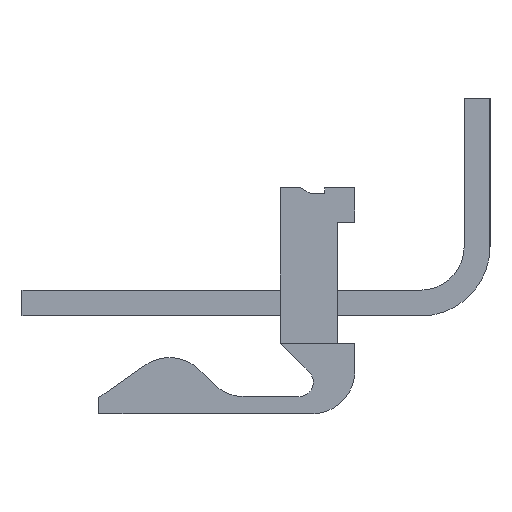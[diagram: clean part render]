
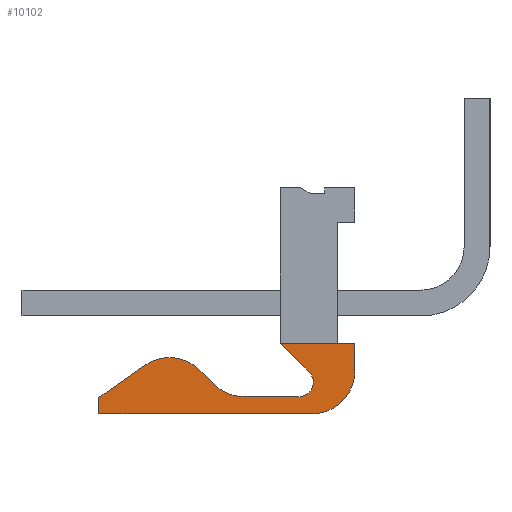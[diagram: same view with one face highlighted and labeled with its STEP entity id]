
A CAD part, left-side view. The second image highlights one B-rep face of the part: STEP entity #10102.
In plain terms, the highlighted planar face has unit normal (-1, 0, 0).
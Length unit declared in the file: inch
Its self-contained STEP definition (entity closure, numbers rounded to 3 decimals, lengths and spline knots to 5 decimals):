
#2705=DIRECTION('',(0.,1.,0.));
#2706=VECTOR('',#2705,0.1);
#2707=CARTESIAN_POINT('',(-1.17,-0.05,-0.1355));
#2708=LINE('',#2707,#2706);
#3421=DIRECTION('',(0.,-1.,0.));
#3422=VECTOR('',#3421,0.03);
#3423=CARTESIAN_POINT('',(-1.17,-0.05,-0.1355));
#3424=LINE('',#3423,#3422);
#3425=DIRECTION('',(0.,0.,-1.));
#3426=VECTOR('',#3425,0.048);
#3427=CARTESIAN_POINT('',(-1.17,-0.08,-0.1355));
#3428=LINE('',#3427,#3426);
#3429=CARTESIAN_POINT('',(-1.17,-0.005,-0.1835));
#3430=DIRECTION('',(1.,0.,0.));
#3431=DIRECTION('',(0.,-1.,0.));
#3432=AXIS2_PLACEMENT_3D('',#3429,#3430,#3431);
#3434=DIRECTION('',(0.,1.,0.));
#3435=VECTOR('',#3434,0.371);
#3436=CARTESIAN_POINT('',(-1.17,-0.005,-0.2585));
#3437=LINE('',#3436,#3435);
#3438=DIRECTION('',(0.,0.,1.));
#3439=VECTOR('',#3438,0.02843);
#3440=CARTESIAN_POINT('',(-1.17,0.366,-0.2585));
#3441=LINE('',#3440,#3439);
#3442=DIRECTION('',(0.,-0.819,0.574));
#3443=VECTOR('',#3442,0.09764);
#3444=CARTESIAN_POINT('',(-1.17,0.366,-0.23007));
#3445=LINE('',#3444,#3443);
#3446=CARTESIAN_POINT('',(-1.17,0.243,-0.2355));
#3447=DIRECTION('',(1.,0.,0.));
#3448=DIRECTION('',(0.,0.574,0.819));
#3449=AXIS2_PLACEMENT_3D('',#3446,#3447,#3448);
#3451=DIRECTION('',(0.,-0.707,-0.707));
#3452=VECTOR('',#3451,0.03403);
#3453=CARTESIAN_POINT('',(-1.17,0.18997,-0.18247));
#3454=LINE('',#3453,#3452);
#3455=CARTESIAN_POINT('',(-1.17,0.11287,-0.1535));
#3456=DIRECTION('',(-1.,0.,0.));
#3457=DIRECTION('',(0.,0.707,-0.707));
#3458=AXIS2_PLACEMENT_3D('',#3455,#3456,#3457);
#3460=DIRECTION('',(0.,-1.,0.));
#3461=VECTOR('',#3460,0.09551);
#3462=CARTESIAN_POINT('',(-1.17,0.11287,-0.2285));
#3463=LINE('',#3462,#3461);
#3464=CARTESIAN_POINT('',(-1.17,0.01736,-0.2035));
#3465=DIRECTION('',(-1.,0.,0.));
#3466=DIRECTION('',(0.,0.,-1.));
#3467=AXIS2_PLACEMENT_3D('',#3464,#3465,#3466);
#3469=DIRECTION('',(0.,0.707,0.707));
#3470=VECTOR('',#3469,0.07117);
#3471=CARTESIAN_POINT('',(-1.17,-0.00032,-0.18582));
#3472=LINE('',#3471,#3470);
#3931=CARTESIAN_POINT('',(-1.17,-0.08,-0.1355));
#3932=CARTESIAN_POINT('',(-1.17,-0.08,-0.1835));
#3933=VERTEX_POINT('',#3931);
#3934=VERTEX_POINT('',#3932);
#3935=CARTESIAN_POINT('',(-1.17,-0.005,-0.2585));
#3936=VERTEX_POINT('',#3935);
#3937=CARTESIAN_POINT('',(-1.17,0.366,-0.2585));
#3938=VERTEX_POINT('',#3937);
#3939=CARTESIAN_POINT('',(-1.17,0.366,-0.23007));
#3940=VERTEX_POINT('',#3939);
#3941=CARTESIAN_POINT('',(-1.17,0.28602,-0.17406));
#3942=VERTEX_POINT('',#3941);
#3943=CARTESIAN_POINT('',(-1.17,0.18997,-0.18247));
#3944=VERTEX_POINT('',#3943);
#3945=CARTESIAN_POINT('',(-1.17,0.1659,-0.20653));
#3946=VERTEX_POINT('',#3945);
#3947=CARTESIAN_POINT('',(-1.17,0.11287,-0.2285));
#3948=VERTEX_POINT('',#3947);
#3949=CARTESIAN_POINT('',(-1.17,0.01736,-0.2285));
#3950=VERTEX_POINT('',#3949);
#3951=CARTESIAN_POINT('',(-1.17,-0.00032,-0.18582));
#3952=VERTEX_POINT('',#3951);
#3957=CARTESIAN_POINT('',(-1.17,-0.05,-0.1355));
#3958=CARTESIAN_POINT('',(-1.17,0.05,-0.1355));
#3959=VERTEX_POINT('',#3957);
#3960=VERTEX_POINT('',#3958);
#10073=CARTESIAN_POINT('',(-1.17,0.,0.));
#10074=DIRECTION('',(1.,0.,0.));
#10075=DIRECTION('',(0.,0.,-1.));
#10076=AXIS2_PLACEMENT_3D('',#10073,#10074,#10075);
#10077=PLANE('',#10076);
#10078=ORIENTED_EDGE('',*,*,#8990,.F.);
#10079=ORIENTED_EDGE('',*,*,#8935,.T.);
#10080=ORIENTED_EDGE('',*,*,#8893,.T.);
#10082=ORIENTED_EDGE('',*,*,#10081,.T.);
#10084=ORIENTED_EDGE('',*,*,#10083,.T.);
#10086=ORIENTED_EDGE('',*,*,#10085,.T.);
#10088=ORIENTED_EDGE('',*,*,#10087,.T.);
#10090=ORIENTED_EDGE('',*,*,#10089,.T.);
#10092=ORIENTED_EDGE('',*,*,#10091,.T.);
#10094=ORIENTED_EDGE('',*,*,#10093,.T.);
#10096=ORIENTED_EDGE('',*,*,#10095,.T.);
#10098=ORIENTED_EDGE('',*,*,#10097,.T.);
#10099=ORIENTED_EDGE('',*,*,#8813,.T.);
#10100=EDGE_LOOP('',(#10078,#10079,#10080,#10082,#10084,#10086,#10088,#10090,
#10092,#10094,#10096,#10098,#10099));
#10101=FACE_OUTER_BOUND('',#10100,.F.);
#10102=ADVANCED_FACE('',(#10101),#10077,.F.);
#3433=CIRCLE('',#3432,0.075);
#3450=CIRCLE('',#3449,0.075);
#3459=CIRCLE('',#3458,0.075);
#3468=CIRCLE('',#3467,0.025);
#8813=EDGE_CURVE('',#3952,#3960,#3472,.T.);
#8893=EDGE_CURVE('',#3933,#3934,#3428,.T.);
#8935=EDGE_CURVE('',#3959,#3933,#3424,.T.);
#8990=EDGE_CURVE('',#3959,#3960,#2708,.T.);
#10081=EDGE_CURVE('',#3934,#3936,#3433,.T.);
#10083=EDGE_CURVE('',#3936,#3938,#3437,.T.);
#10085=EDGE_CURVE('',#3938,#3940,#3441,.T.);
#10087=EDGE_CURVE('',#3940,#3942,#3445,.T.);
#10089=EDGE_CURVE('',#3942,#3944,#3450,.T.);
#10091=EDGE_CURVE('',#3944,#3946,#3454,.T.);
#10093=EDGE_CURVE('',#3946,#3948,#3459,.T.);
#10095=EDGE_CURVE('',#3948,#3950,#3463,.T.);
#10097=EDGE_CURVE('',#3950,#3952,#3468,.T.);
